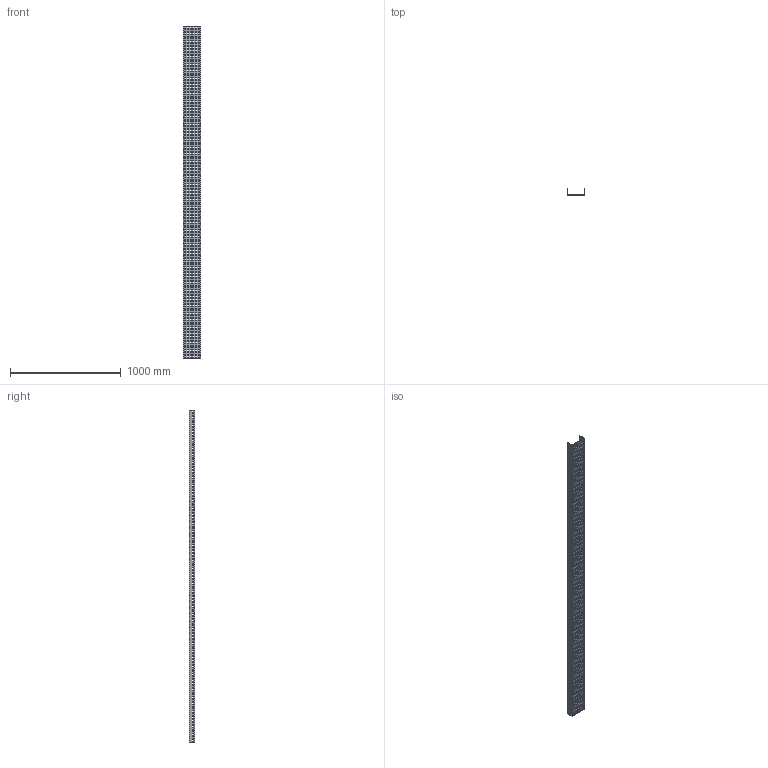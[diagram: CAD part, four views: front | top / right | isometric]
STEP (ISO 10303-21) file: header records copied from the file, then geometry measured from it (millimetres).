
FILE_DESCRIPTION (( 'STEP AP214' ), '1' );
FILE_NAME ('01F3B150.step', '2025-02-21T13:19:29', ( '' ), ( '' ), 'SwSTEP 2.0', 'SolidWorks 2023', '' );
FILE_SCHEMA (( 'AUTOMOTIVE_DESIGN' ));
Length unit declared in the file: millimetre
Products named in the file (1): 01F3B150
Bounding box: 154 x 52 x 3000 mm (x, y, z)
Volume: 2282700 mm3; surface area: 1456181 mm2
Topology: 1 solids, 1 shells, 2314 faces, 6936 edges, 4624 vertices
Faces by surface type: plane 2314
Entity records: 78647 total; most frequent: CARTESIAN_POINT 13875, ORIENTED_EDGE 13872, DIRECTION 11566, EDGE_CURVE 6936, VECTOR 6936, LINE 6936, VERTEX_POINT 4624, EDGE_LOOP 3466
